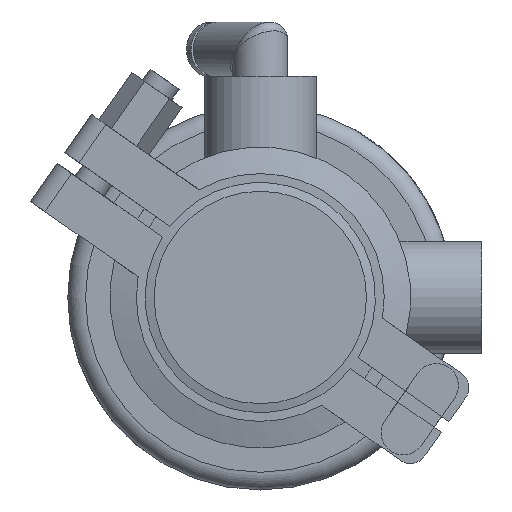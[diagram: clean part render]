
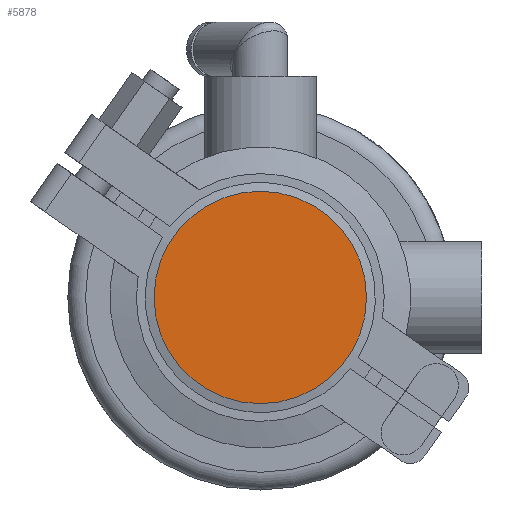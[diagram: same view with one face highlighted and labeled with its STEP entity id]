
A CAD part, front view. The second image highlights one B-rep face of the part: STEP entity #5878.
In plain terms, the highlighted planar face has unit normal (0, -1, 0).
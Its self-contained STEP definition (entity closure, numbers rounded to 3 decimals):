
#135 = PLANE ( 'NONE',  #4741 ) ;
#544 = CARTESIAN_POINT ( 'NONE',  ( -24., 0., 0. ) ) ;
#1089 = CARTESIAN_POINT ( 'NONE',  ( 0., 0., 0. ) ) ;
#1799 = EDGE_LOOP ( 'NONE', ( #18814 ) ) ;
#4741 = AXIS2_PLACEMENT_3D ( 'NONE', #544, #15814, #6429 ) ;
#5878 = ADVANCED_FACE ( 'NONE', ( #6029 ), #135, .T. ) ;
#6029 = FACE_OUTER_BOUND ( 'NONE', #1799, .T. ) ;
#6429 = DIRECTION ( 'NONE',  ( 0., 0., -1. ) ) ;
#7686 = DIRECTION ( 'NONE',  ( 0., 0., 1. ) ) ;
#7694 = CARTESIAN_POINT ( 'NONE',  ( 0., 0., 24. ) ) ;
#7798 = VERTEX_POINT ( 'NONE', #7694 ) ;
#10909 = CIRCLE ( 'NONE', #13498, 24. ) ;
#13498 = AXIS2_PLACEMENT_3D ( 'NONE', #1089, #18413, #7686 ) ;
#15291 = EDGE_CURVE ( 'NONE', #7798, #7798, #10909, .T. ) ;
#15814 = DIRECTION ( 'NONE',  ( 0., -1., 0. ) ) ;
#18413 = DIRECTION ( 'NONE',  ( 0., 1., 0. ) ) ;
#18814 = ORIENTED_EDGE ( 'NONE', *, *, #15291, .F. ) ;
